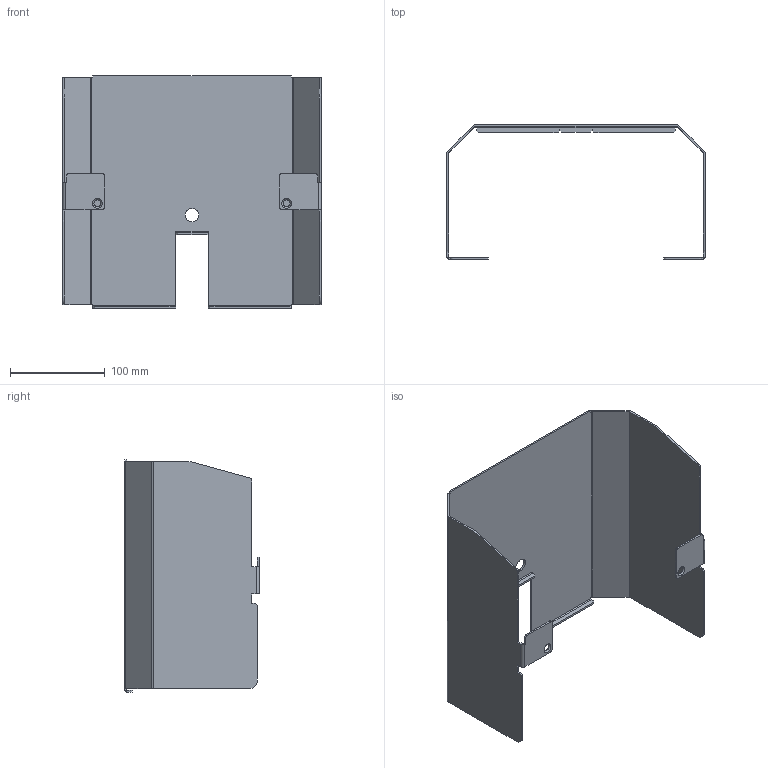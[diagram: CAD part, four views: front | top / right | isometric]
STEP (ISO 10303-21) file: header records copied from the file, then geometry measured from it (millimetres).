
FILE_DESCRIPTION (( 'STEP AP203' ), '1' );
FILE_NAME ('ZF_STEP_VF_KIT8x_A10.STEP', '2010-07-13T09:44:26', ( 'fabio' ), ( '' ), 'SwSTEP 2.0', 'SolidWorks 2009', '' );
FILE_SCHEMA (( 'CONFIG_CONTROL_DESIGN' ));
Length unit declared in the file: millimetre
Products named in the file (1): ZF_STEP_VF_KIT8x_A10
Bounding box: 273.4 x 142.2 x 246 mm (x, y, z)
Volume: 247584.9 mm3; surface area: 251578.7 mm2
Topology: 1 solids, 1 shells, 102 faces, 294 edges, 194 vertices
Faces by surface type: plane 62, cylinder 36, cone 4
Entity records: 3437 total; most frequent: CARTESIAN_POINT 591, ORIENTED_EDGE 588, DIRECTION 578, EDGE_CURVE 294, LINE 216, VECTOR 216, VERTEX_POINT 194, AXIS2_PLACEMENT_3D 181
